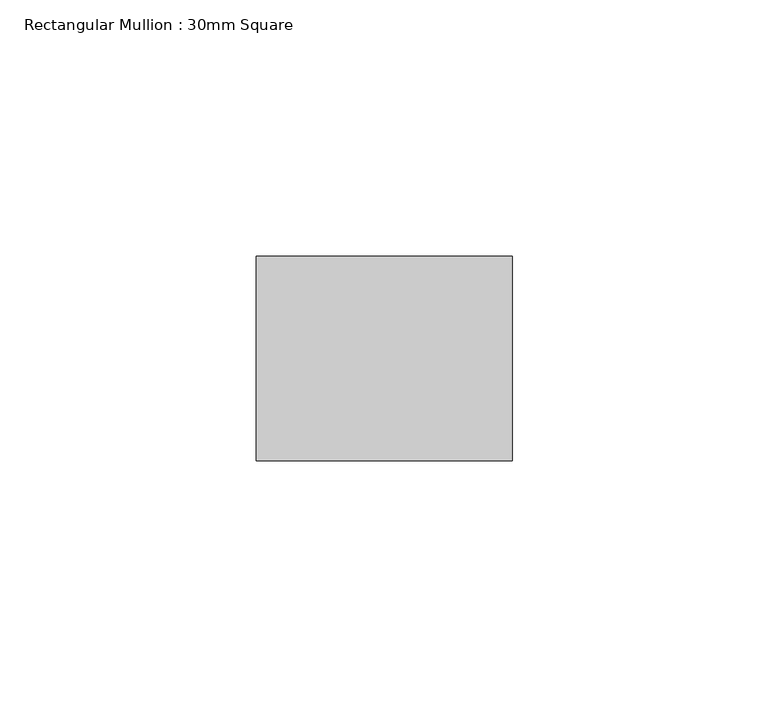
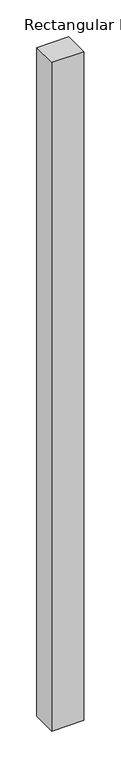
"""IFC4 building model written with IfcOpenShell, lengths in millimetres: member geometry, Rectangular Mullion : 30mm Square."""

from ifc_helpers import new_model, si_unit, frame, origin, place, context, project, spatial, polyline, outline, extrude, source, transform, mapped, element, save


def rectangular_mullion_30mm_square_79043444(model_context):
    return source(origin(), model_context, "Body", "SweptSolid", [
        extrude(outline(polyline([(25.0, 20.0), (25.0, -20.0), (-25.0, -20.0), (-25.0, 20.0), (25.0, 20.0)])), frame((0.0, 0.0, -1105.0), z_axis=(0.0, 0.0, 1.0), x_axis=(1.0, 0.0, 0.0)), (0.0, 0.0, 1.0), 1105.0),
    ])


if __name__ == "__main__":
    model = new_model("IFC4")
    model_context = context("Model", 3, world=origin())
    ifc_project = project(units=[si_unit("LENGTHUNIT", "METRE", prefix="MILLI")], contexts=[model_context])
    site = spatial("IfcSite", under=ifc_project)
    building = spatial("IfcBuilding", under=site)
    placement = place(None, origin())
    rectangular_mullion_30mm_square_shape = rectangular_mullion_30mm_square_79043444(model_context)
    element("IfcMember", 1, ObjectType="Rectangular Mullion : 30mm Square", at=placement, inside=building, context=model_context, shape_type="MappedRepresentation", body=[
        mapped(rectangular_mullion_30mm_square_shape, transform((0.0, 0.0, 0.0), x_axis=(1.0, 0.0, 0.0), y_axis=(0.0, 1.0, 0.0), z_axis=(0.0, 0.0, 1.0))),
    ])
    save(model, "model.ifc")
